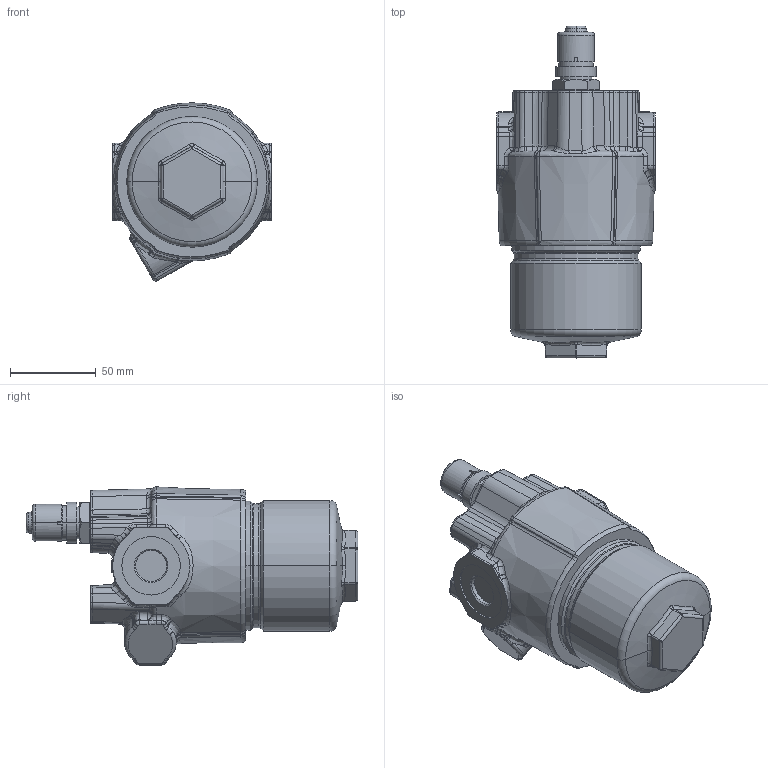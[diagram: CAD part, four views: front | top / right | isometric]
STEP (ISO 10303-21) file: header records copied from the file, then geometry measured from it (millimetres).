
FILE_DESCRIPTION((''),'2;1');
FILE_NAME('1000143790_ASM','2019-05-23T',('a.budig'),(''),'PRO/ENGINEER BY PARAMETRIC TECHNOLOGY CORPORATION, 2015110','PRO/ENGINEER BY PARAMETRIC TECHNOLOGY CORPORATION, 2015110','');
FILE_SCHEMA(('AUTOMOTIVE_DESIGN { 1 0 10303 214 1 1 1 1 }'));
Products named in the file (3): HD037_OHNEDG; DG_063-05_28706101_; 1000143790_ASM
Assembly tree (2 placements, depth 2):
  1000143790_ASM
    HD037_OHNEDG
    DG_063-05_28706101_
Bounding box: 92 x 192.95 x 103.67 mm (x, y, z)
Volume: 794125.4 mm3; surface area: 63250.4 mm2
Topology: 2 solids, 4 shells, 839 faces, 2027 edges, 1191 vertices
Faces by surface type: cylinder 248, bspline 189, plane 181, cone 98, torus 91, sphere 32
Entity records: 54397 total; most frequent: CARTESIAN_POINT 23978, ORIENTED_EDGE 3980, DIRECTION 3464, PRESENTATION_STYLE_ASSIGNMENT 2826, STYLED_ITEM 1992, CURVE_STYLE 1990, EDGE_CURVE 1990, AXIS2_PLACEMENT_3D 1421
